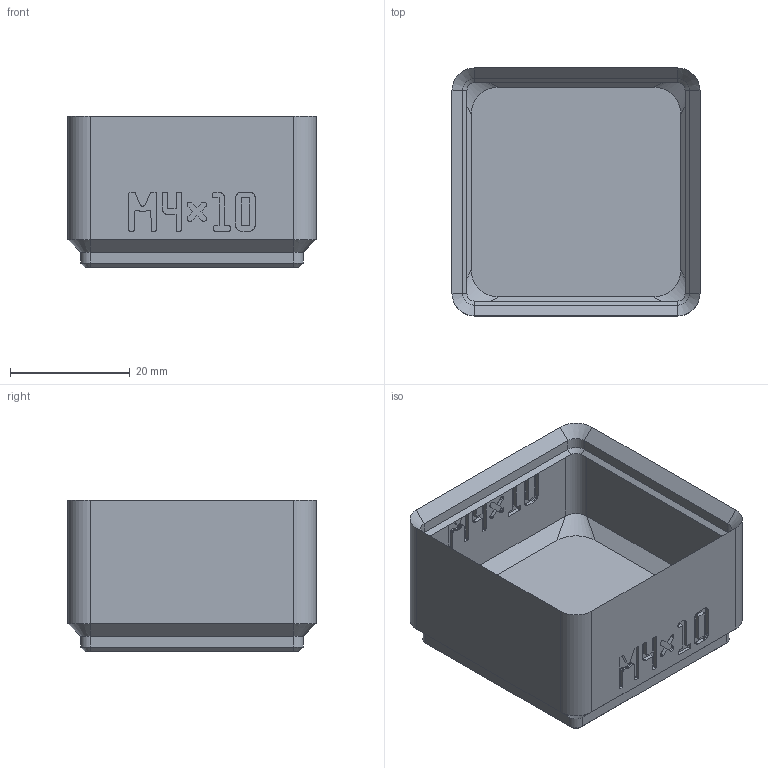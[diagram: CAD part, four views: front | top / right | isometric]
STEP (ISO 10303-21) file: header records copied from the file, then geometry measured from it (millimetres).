
FILE_DESCRIPTION(('Open CASCADE Model'),'2;1');
FILE_NAME('bin_m4x10','2026-11-16T17:22:09',('Author'),('Open CASCADE'), 'Open CASCADE STEP processor 8.0','build123d','Unknown');
FILE_SCHEMA(('AUTOMOTIVE_DESIGN { 1 0 10303 214 1 1 1 1 }'));
Products named in the file (1): bin_m4x10
Bounding box: 41.5 x 41.5 x 25.4 mm (x, y, z)
Volume: 12271.9 mm3; surface area: 10543.5 mm2
Topology: 1 solids, 1 shells, 983 faces, 2824 edges, 1864 vertices
Faces by surface type: plane 935, cylinder 24, cone 16, bspline 8
Full cylindrical faces by diameter (mm): 3.2 x4, 6.5 x4
Entity records: 66336 total; most frequent: CARTESIAN_POINT 13348, DIRECTION 8556, LINE 6456, VECTOR 6456, ORIENTED_EDGE 5648, PCURVE 5648, DEFINITIONAL_REPRESENTATION 5648, EDGE_CURVE 2824
